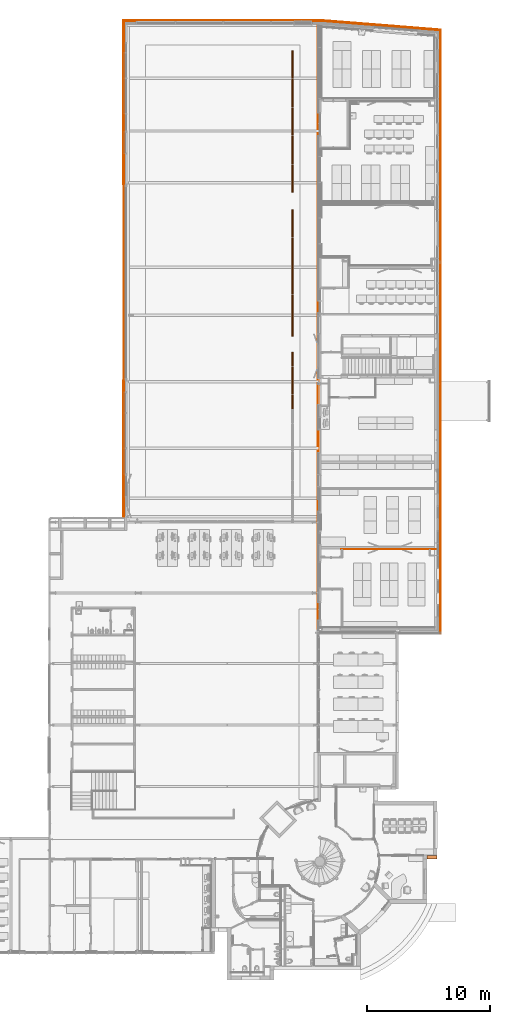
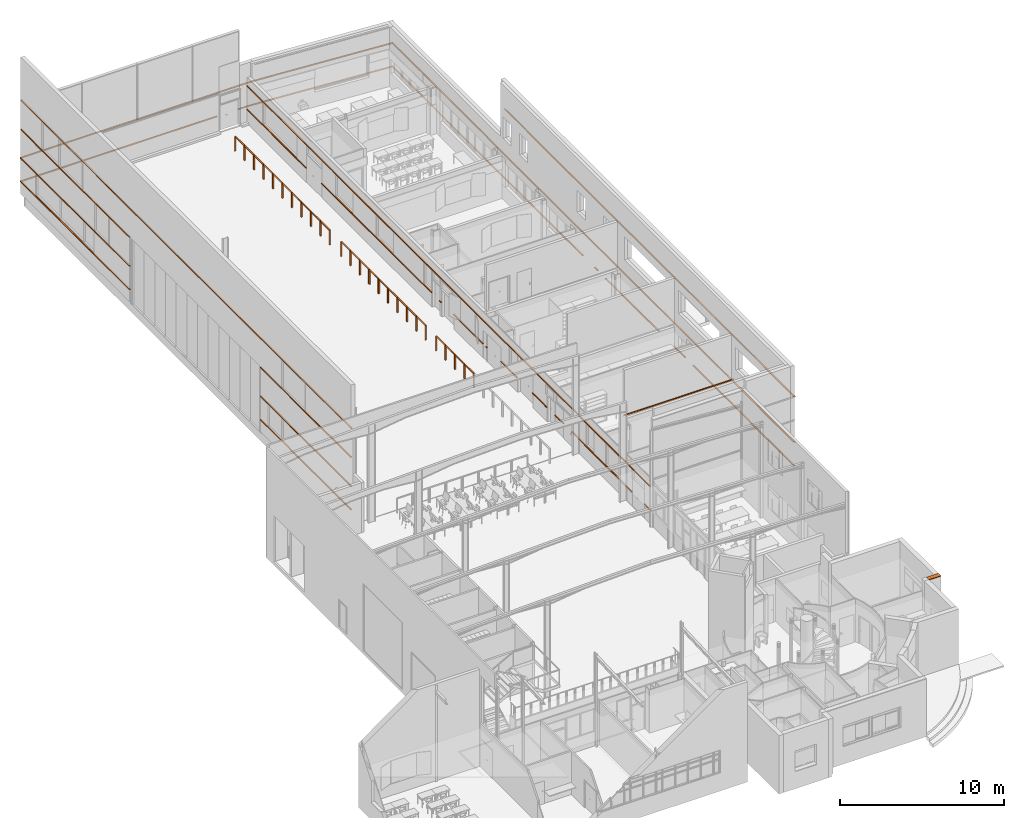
# One storey, part 135 of 137: 38 proxies.
"""IFC2X3 building model written with IfcOpenShell, lengths in centimetres."""

from ifc_helpers import new_model, entity, si_unit, converted_unit, derived_unit, direction, frame, frame_2d, origin, origin_2d_with_axis, place, context, subcontext, project, spatial, polyline, rectangle, outline, extrude, source, transform, mapped, type_object, type_shapes, element, save


model = new_model("IFC2X3")

# Units and contexts
model_context = context("Model", 3, precision=0.001, world=origin(), true_north=direction((6.12303176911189e-17, 1.0)))
body_context = subcontext(model_context, "Body", "Model", "MODEL_VIEW")
ifc_project = project(units=[si_unit("LENGTHUNIT", "METRE", prefix="CENTI"), si_unit("AREAUNIT", "SQUARE_METRE"), si_unit("VOLUMEUNIT", "CUBIC_METRE"), converted_unit("PLANEANGLEUNIT", "DEGREE", entity("IfcRatioMeasure", 0.0174532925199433), si_unit("PLANEANGLEUNIT", "RADIAN"), dimensions=[0, 0, 0, 0, 0, 0, 0]), si_unit("MASSUNIT", "GRAM", prefix="KILO"), si_unit("TIMEUNIT", "SECOND"), si_unit("FREQUENCYUNIT", "HERTZ"), si_unit("THERMODYNAMICTEMPERATUREUNIT", "DEGREE_CELSIUS"), derived_unit("THERMALTRANSMITTANCEUNIT", [(si_unit("MASSUNIT", "GRAM", prefix="KILO"), 1), (si_unit("THERMODYNAMICTEMPERATUREUNIT", "KELVIN"), -1), (si_unit("TIMEUNIT", "SECOND"), -3)]), derived_unit("VOLUMETRICFLOWRATEUNIT", [(si_unit("LENGTHUNIT", "METRE"), 3), (si_unit("TIMEUNIT", "SECOND"), -1)]), si_unit("ELECTRICCURRENTUNIT", "AMPERE"), si_unit("ELECTRICVOLTAGEUNIT", "VOLT"), si_unit("POWERUNIT", "WATT"), si_unit("FORCEUNIT", "NEWTON", prefix="KILO"), si_unit("ILLUMINANCEUNIT", "LUX"), si_unit("LUMINOUSFLUXUNIT", "LUMEN"), si_unit("LUMINOUSINTENSITYUNIT", "CANDELA"), derived_unit("USERDEFINED", [(si_unit("MASSUNIT", "GRAM", prefix="KILO"), -1), (si_unit("LENGTHUNIT", "METRE"), -2), (si_unit("TIMEUNIT", "SECOND"), 3), (si_unit("LUMINOUSFLUXUNIT", "LUMEN"), 1)]), derived_unit("LINEARVELOCITYUNIT", [(si_unit("LENGTHUNIT", "METRE"), 1), (si_unit("TIMEUNIT", "SECOND"), -1)]), si_unit("PRESSUREUNIT", "PASCAL"), derived_unit("USERDEFINED", [(si_unit("LENGTHUNIT", "METRE"), -2), (si_unit("MASSUNIT", "GRAM", prefix="KILO"), 1), (si_unit("TIMEUNIT", "SECOND"), -2)])], contexts=[model_context])

# Site, building, storey, space
site_placement = place(None, frame((8.62739174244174, -249.285249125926, 0.0)))
site = spatial("IfcSite", under=ifc_project, at=site_placement, Name="Default", CompositionType="ELEMENT")
building_placement = place(site_placement, origin())
building = spatial("IfcBuilding", under=site, at=building_placement, CompositionType="ELEMENT")
storey_placement = place(building_placement, origin())
storey = spatial("IfcBuildingStorey", under=building, at=storey_placement, Name="RDC", CompositionType="ELEMENT", Elevation=-8.82465566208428e-11)
space_placement = place(storey_placement, origin())
space = spatial("IfcSpace", under=storey, at=space_placement, Name="083", CompositionType="ELEMENT", InteriorOrExteriorSpace="INTERNAL")

# Proxies
building_element_proxy_type = type_object("IfcBuildingElementProxyType", Name="garde-corps-demontable", PredefinedType="NOTDEFINED")
shared_shape = source(origin(), body_context, "Body", "SweptSolid", [
    extrude(outline(polyline([(-55.5, -55.0), (54.5, -55.0), (54.5000000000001, -53.0), (-53.5000000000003, -53.0), (-53.5, 53.0), (54.5, 53.0), (54.5000000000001, 55.0), (-55.5, 55.0), (-55.5, -55.0)])), frame((0.0, 55.0, 54.5000000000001), z_axis=(1.0, 0.0, 0.0), x_axis=(0.0, 0.0, -1.0)), (0.0, 0.0, 1.0), 10.0),
])
type_shapes(building_element_proxy_type, [shared_shape])
for number, where, name in (
    (1, (2816.9048277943, 6192.4797874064, 0.0), "garde-corps-demontable:garde-corps-demontable"),
    (2, (2816.9048277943, 5942.4797874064, 0.0), "garde-corps-demontable:garde-corps-demontable"),
    (3, (2816.9048277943, 5827.4797874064, 0.0), "garde-corps-demontable:garde-corps-demontable"),
    (4, (2816.9048277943, 5712.4797874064, 0.0), "garde-corps-demontable:garde-corps-demontable"),
    (5, (2816.9048277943, 5597.4797874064, 0.0), "garde-corps-demontable:garde-corps-demontable"),
    (6, (2816.9048277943, 5482.4797874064, 0.0), "garde-corps-demontable:garde-corps-demontable"),
    (7, (2816.9048277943, 5367.4797874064, 0.0), "garde-corps-demontable:garde-corps-demontable"),
    (8, (2816.9048277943, 5252.4797874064, 0.0), "garde-corps-demontable:garde-corps-demontable"),
    (9, (2816.9048277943, 5137.4797874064, 0.0), "garde-corps-demontable:garde-corps-demontable"),
    (10, (2816.9048277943, 5022.4797874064, 0.0), "garde-corps-demontable:garde-corps-demontable"),
    (11, (2816.9048277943, 4783.4797874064, 0.0), "garde-corps-demontable:garde-corps-demontable"),
    (12, (2816.9048277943, 4667.4797874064, 0.0), "garde-corps-demontable:garde-corps-demontable"),
    (13, (2816.9048277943, 4551.4797874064, 0.0), "garde-corps-demontable:garde-corps-demontable"),
    (14, (2816.9048277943, 4435.4797874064, 0.0), "garde-corps-demontable:garde-corps-demontable"),
    (15, (2816.9048277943, 6308.4797874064, 0.0), "garde-corps-demontable:garde-corps-demontable"),
    (16, (2816.9048277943, 6424.4797874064, 0.0), "garde-corps-demontable:garde-corps-demontable"),
    (17, (2816.9048277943, 6540.4797874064, 0.0), "garde-corps-demontable:garde-corps-demontable"),
    (18, (2816.9048277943, 6656.4797874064, 0.0), "garde-corps-demontable:garde-corps-demontable"),
    (19, (2816.9048277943, 6772.4797874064, 0.0), "garde-corps-demontable:garde-corps-demontable"),
    (20, (2816.9048277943, 6888.4797874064, 0.0), "garde-corps-demontable:garde-corps-demontable"),
    (21, (2816.9048277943, 7004.4797874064, 0.0), "garde-corps-demontable:garde-corps-demontable"),
    (22, (2816.9048277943, 7120.4797874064, 0.0), "garde-corps-demontable:garde-corps-demontable"),
    (23, (2816.9048277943, 7236.4797874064, 0.0), "garde-corps-demontable:garde-corps-demontable"),
):
    element("IfcBuildingElementProxy", number, at=place(space_placement, frame(where)), inside=space, type_object=building_element_proxy_type, Name=name, ObjectType="garde-corps-demontable", context=body_context, shape_type="MappedRepresentation", body=[
        mapped(shared_shape, transform((0.0, 0.0, 0.0), scale=1.0)),
    ])
proxy_1_placement = place(storey_placement, origin())
element("IfcBuildingElementProxy", 24, at=proxy_1_placement, inside=storey, Name="Profil en relief:Profil-acier-5x5", ObjectType="Profil en relief:Profil-acier-5x5", context=body_context, shape_type="SweptSolid", body=[
    extrude(outline(polyline([(-42.3924879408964, -3.50000000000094), (42.2543292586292, -3.50000000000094), (42.5306466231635, 3.4999999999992), (-42.3924879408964, 3.4999999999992), (-42.3924879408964, -3.50000000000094)])), frame((3025.29731574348, 7588.476551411, 105.0)), (0.0, 0.0, 1.0), 4.99999999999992),
    extrude(rectangle(XDim=1386.00000000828, YDim=7.00000000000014, at=frame_2d((-1.70530256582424e-13, -4.33209024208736e-13), x_axis=(1.0, 0.0))), frame((2139.90482779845, 7588.476551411, 105.0)), (0.0, 0.0, 1.0), 4.99999999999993),
])
proxy_2_placement = place(storey_placement, origin())
element("IfcBuildingElementProxy", 25, at=proxy_2_placement, inside=storey, Name="Profil en relief:Profil-acier-5x5", ObjectType="Profil en relief:Profil-acier-5x5", context=body_context, shape_type="SweptSolid", body=[
    extrude(outline(polyline([(-1770.0, -3.50000000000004), (1770.0, -3.5000000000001), (1763.0, 3.50000000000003), (-1763.0, 3.50000000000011), (-1770.0, -3.50000000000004)])), frame((4025.40482781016, 4374.98020810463, 621.0), z_axis=(0.0, 0.0, 1.0), x_axis=(0.0, 1.0, 0.0)), (0.0, 0.0, 1.0), 4.99999999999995),
])
proxy_3_placement = place(storey_placement, origin())
element("IfcBuildingElementProxy", 26, at=proxy_3_placement, inside=storey, Name="Profil en relief:Profil-acier-5x5", ObjectType="Profil en relief:Profil-acier-5x5", context=body_context, shape_type="SweptSolid", body=[
    extrude(outline(polyline([(-2455.63441684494, -3.50000000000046), (2455.36859260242, -3.50000000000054), (2448.90024108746, 3.49999999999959), (-2448.63441684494, 3.49999999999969), (-2455.63441684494, -3.50000000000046)])), frame((4025.40482781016, 5060.6146249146, 280.0), z_axis=(0.0, 0.0, 1.0), x_axis=(0.0, 1.0, 0.0)), (0.0, 0.0, 1.0), 4.99999999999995),
])
proxy_4_placement = place(storey_placement, origin())
element("IfcBuildingElementProxy", 27, at=proxy_4_placement, inside=storey, Name="Profil en relief:Profil-acier-5x5", ObjectType="Profil en relief:Profil-acier-5x5", context=body_context, shape_type="SweptSolid", body=[
    extrude(rectangle(XDim=1232.204985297, YDim=7.00000000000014, at=origin_2d_with_axis()), frame((4025.40482781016, 3224.08270071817, 105.0), z_axis=(0.0, 0.0, 1.0), x_axis=(0.0, 1.0, 0.0)), (0.0, 0.0, 1.0), 4.99999999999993),
    extrude(outline(polyline([(-1160.38441681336, -3.50000000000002), (1163.61859257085, -3.50000000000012), (1157.15024105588, 3.50000000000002), (-1160.38441681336, 3.50000000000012), (-1160.38441681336, -3.50000000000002)])), frame((4025.40482781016, 6352.36462494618, 105.0), z_axis=(0.0, 0.0, 1.0), x_axis=(0.0, 1.0, 0.0)), (0.0, 0.0, 1.0), 4.99999999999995),
    extrude(rectangle(XDim=35.9999999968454, YDim=7.00000000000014, at=origin_2d_with_axis()), frame((4025.40482781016, 5024.98020813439, 105.0), z_axis=(0.0, 0.0, 1.0), x_axis=(0.0, 1.0, 0.0)), (0.0, 0.0, 1.0), 4.99999999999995),
    extrude(rectangle(XDim=642.795014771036, YDim=7.00000000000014, at=frame_2d((0.0, 4.33209024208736e-13), x_axis=(1.0, 0.0))), frame((4025.40482781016, 4585.58270075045, 105.0), z_axis=(0.0, 0.0, 1.0), x_axis=(0.0, 1.0, 0.0)), (0.0, 0.0, 1.0), 4.99999999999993),
    extrude(rectangle(XDim=134.999999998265, YDim=7.00000000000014, at=frame_2d((4.2632564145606e-13, 4.33209024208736e-13), x_axis=(1.0, 0.0))), frame((4025.40482781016, 4007.6851933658, 105.0), z_axis=(0.0, 0.0, 1.0), x_axis=(0.0, 1.0, 0.0)), (0.0, 0.0, 1.0), 4.99999999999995),
])
proxy_5_placement = place(storey_placement, origin())
element("IfcBuildingElementProxy", 28, at=proxy_5_placement, inside=storey, Name="Profil en relief:Profil-acier-5x5", ObjectType="Profil en relief:Profil-acier-5x5", context=body_context, shape_type="SweptSolid", body=[
    extrude(rectangle(XDim=4033.99594889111, YDim=6.99999999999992, at=frame_2d((0.0, 1.08357767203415e-13), x_axis=(1.0, 0.0))), frame((1452.98017189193, 5571.97857696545, 710.0), z_axis=(0.0, 0.0, 1.0), x_axis=(0.0, 1.0, 0.0)), (0.0, 0.0, 1.0), 4.99999999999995),
])
proxy_6_placement = place(storey_placement, origin())
element("IfcBuildingElementProxy", 29, at=proxy_6_placement, inside=storey, Name="Profil en relief:Profil-acier-5x5", ObjectType="Profil en relief:Profil-acier-5x5", context=body_context, shape_type="SweptSolid", body=[
    extrude(outline(polyline([(-805.142487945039, -3.50000000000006), (808.504329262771, -3.50000000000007), (808.780646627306, 3.50000000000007), (-812.142487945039, 3.50000000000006), (-805.142487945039, -3.50000000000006)])), frame((2259.04731573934, 7588.476551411, 280.0)), (0.0, 0.0, 1.0), 4.99999999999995),
])
proxy_7_placement = place(storey_placement, origin())
element("IfcBuildingElementProxy", 30, at=proxy_7_placement, inside=storey, Name="Profil en relief:Profil-acier-5x5", ObjectType="Profil en relief:Profil-acier-5x5", context=body_context, shape_type="SweptSolid", body=[
    extrude(outline(polyline([(-480.213983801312, -3.50000000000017), (477.117966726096, -3.50000000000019), (483.586318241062, 3.5000000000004), (-480.490301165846, 3.49999999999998), (-480.213983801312, -3.50000000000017)])), frame((3546.54731574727, 7550.61279658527, 105.0), z_axis=(0.0, 0.0, 1.0), x_axis=(0.996888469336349, -0.0788249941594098, 0.0)), (0.0, 0.0, 1.0), 4.99999999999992),
])
proxy_8_placement = place(storey_placement, origin())
element("IfcBuildingElementProxy", 31, at=proxy_8_placement, inside=storey, Name="Profil en relief:Profil-acier-5x5", ObjectType="Profil en relief:Profil-acier-5x5", context=body_context, shape_type="SweptSolid", body=[
    extrude(outline(polyline([(-480.213983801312, -3.50000000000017), (477.117966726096, -3.50000000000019), (483.586318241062, 3.5000000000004), (-480.490301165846, 3.49999999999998), (-480.213983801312, -3.50000000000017)])), frame((3546.54731574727, 7550.61279658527, 280.0), z_axis=(0.0, 0.0, 1.0), x_axis=(0.996888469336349, -0.0788249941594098, 0.0)), (0.0, 0.0, 1.0), 4.99999999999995),
])
proxy_9_placement = place(storey_placement, origin())
element("IfcBuildingElementProxy", 32, at=proxy_9_placement, inside=storey, Name="Profil en relief:Profil-acier-5x5", ObjectType="Profil en relief:Profil-acier-5x5", context=body_context, shape_type="SweptSolid", body=[
    extrude(rectangle(XDim=1106.29462038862, YDim=6.99999999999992, at=frame_2d((3.97903932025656e-13, 1.08357767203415e-13), x_axis=(1.0, 0.0))), frame((1450.4048277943, 4108.1279127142, 495.0), z_axis=(0.0, 0.0, 1.0), x_axis=(0.0, 1.0, 0.0)), (0.0, 0.0, 1.0), 5.00000000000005),
    extrude(rectangle(XDim=1323.70172295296, YDim=6.99999999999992, at=frame_2d((0.0, 1.08357767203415e-13), x_axis=(1.0, 0.0))), frame((1450.4048277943, 6923.126084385, 495.0), z_axis=(0.0, 0.0, 1.0), x_axis=(0.0, 1.0, 0.0)), (0.0, 0.0, 1.0), 5.00000000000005),
])
proxy_10_placement = place(storey_placement, origin())
element("IfcBuildingElementProxy", 33, at=proxy_10_placement, inside=storey, Name="Profil en relief:Profil-acier-5x5", ObjectType="Profil en relief:Profil-acier-5x5", context=body_context, shape_type="SweptSolid", body=[
    extrude(rectangle(XDim=1106.29462038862, YDim=6.99999999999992, at=frame_2d((3.97903932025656e-13, 1.08357767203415e-13), x_axis=(1.0, 0.0))), frame((1450.4048277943, 4108.1279127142, 105.0), z_axis=(0.0, 0.0, 1.0), x_axis=(0.0, 1.0, 0.0)), (0.0, 0.0, 1.0), 4.99999999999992),
    extrude(rectangle(XDim=1327.70132850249, YDim=6.99999999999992, at=frame_2d((-4.54747350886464e-13, 1.08357767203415e-13), x_axis=(1.0, 0.0))), frame((1450.4048277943, 6925.12588715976, 105.0), z_axis=(0.0, 0.0, 1.0), x_axis=(0.0, 1.0, 0.0)), (0.0, 0.0, 1.0), 4.99999999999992),
])
proxy_11_placement = place(storey_placement, origin())
element("IfcBuildingElementProxy", 34, at=proxy_11_placement, inside=storey, Name="Profil en relief:Profil-acier-5x5", ObjectType="Profil en relief:Profil-acier-5x5", context=body_context, shape_type="SweptSolid", body=[
    extrude(rectangle(XDim=1106.29462038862, YDim=6.99999999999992, at=frame_2d((3.97903932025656e-13, 1.08357767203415e-13), x_axis=(1.0, 0.0))), frame((1450.4048277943, 4108.1279127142, 280.0), z_axis=(0.0, 0.0, 1.0), x_axis=(0.0, 1.0, 0.0)), (0.0, 0.0, 1.0), 4.99999999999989),
    extrude(outline(polyline([(-663.600664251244, -3.49999999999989), (660.100664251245, -3.49999999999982), (667.100664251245, 3.50000000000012), (-663.600664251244, 3.50000000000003), (-663.600664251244, -3.49999999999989)])), frame((1450.4048277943, 6924.87588715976, 280.0), z_axis=(0.0, 0.0, 1.0), x_axis=(0.0, 1.0, 0.0)), (0.0, 0.0, 1.0), 4.99999999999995),
])
proxy_12_placement = place(storey_placement, origin())
element("IfcBuildingElementProxy", 35, at=proxy_12_placement, inside=storey, Name="Profil en relief:Plinthe-10x2", ObjectType="Profil en relief:Plinthe-10x2", context=body_context, shape_type="SweptSolid", body=[
    extrude(rectangle(XDim=774.500000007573, YDim=1.99999999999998, at=frame_2d((2.27373675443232e-13, 2.16604512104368e-13), x_axis=(1.0, 0.0))), frame((3607.15482780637, 3292.18519336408, 343.0)), (0.0, 0.0, 1.0), 10.0000000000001),
])
proxy_13_placement = place(storey_placement, origin())
element("IfcBuildingElementProxy", 36, at=proxy_13_placement, inside=storey, Name="Profil en relief:Profil-acier-5x5", ObjectType="Profil en relief:Profil-acier-5x5", context=body_context, shape_type="SweptSolid", body=[
    extrude(rectangle(XDim=4926.99634334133, YDim=6.99999999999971, at=frame_2d((0.0, -2.16715534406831e-13), x_axis=(1.0, 0.0))), frame((3030.4048277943, 5098.47837974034, 280.0), z_axis=(0.0, 0.0, 1.0), x_axis=(0.0, -1.0, 0.0)), (0.0, 0.0, 1.0), 4.99999999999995),
])
proxy_14_placement = place(storey_placement, origin())
element("IfcBuildingElementProxy", 37, at=proxy_14_placement, inside=storey, Name="Profil en relief:Profil-acier-5x5", ObjectType="Profil en relief:Profil-acier-5x5", context=body_context, shape_type="SweptSolid", body=[
    extrude(rectangle(XDim=734.952310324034, YDim=6.99999999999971, at=frame_2d((0.0, 2.16715534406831e-13), x_axis=(1.0, 0.0))), frame((3030.40482779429, 3229.20903820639, 105.01534674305), z_axis=(0.0, 0.0, 1.0), x_axis=(0.0, -1.0, 0.0)), (0.0, 0.0, 1.0), 4.99999999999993),
    extrude(rectangle(XDim=101.500000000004, YDim=6.99999999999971, at=origin_2d_with_axis()), frame((3030.40482779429, 3750.43519336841, 105.01534674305), z_axis=(0.0, 0.0, 1.0), x_axis=(0.0, -1.0, 0.0)), (0.0, 0.0, 1.0), 4.99999999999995),
    extrude(rectangle(XDim=170.999999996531, YDim=6.99999999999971, at=frame_2d((0.0, -2.16715534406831e-13), x_axis=(1.0, 0.0))), frame((3030.40482779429, 3988.68519336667, 105.01534674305), z_axis=(0.0, 0.0, 1.0), x_axis=(0.0, -1.0, 0.0)), (0.0, 0.0, 1.0), 4.99999999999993),
    extrude(rectangle(XDim=197.795014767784, YDim=6.99999999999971, at=frame_2d((4.33431068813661e-13, 0.0), x_axis=(1.0, 0.0))), frame((3030.40482779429, 4364.08270074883, 105.01534674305), z_axis=(0.0, 0.0, 1.0), x_axis=(0.0, -1.0, 0.0)), (0.0, 0.0, 1.0), 4.99999999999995),
    extrude(rectangle(XDim=9.00000000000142, YDim=6.99999999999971, at=frame_2d((0.0, 2.16715534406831e-13), x_axis=(1.0, 0.0))), frame((3030.40482779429, 4638.48020813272, 105.01534674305), z_axis=(0.0, 0.0, 1.0), x_axis=(0.0, -1.0, 0.0)), (0.0, 0.0, 1.0), 4.99999999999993),
    extrude(rectangle(XDim=357.250000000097, YDim=6.99999999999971, at=frame_2d((4.40536496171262e-13, 2.16715534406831e-13), x_axis=(1.0, 0.0))), frame((3030.40482779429, 4861.60520813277, 105.01534674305), z_axis=(0.0, 0.0, 1.0), x_axis=(0.0, -1.0, 0.0)), (0.0, 0.0, 1.0), 4.99999999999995),
    extrude(rectangle(XDim=18.0000000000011, YDim=6.99999999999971, at=frame_2d((0.0, 2.16715534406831e-13), x_axis=(1.0, 0.0))), frame((3030.4048277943, 5200.23020813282, 105.01534674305), z_axis=(0.0, 0.0, 1.0), x_axis=(0.0, -1.0, 0.0)), (0.0, 0.0, 1.0), 4.99999999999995),
    extrude(rectangle(XDim=1338.5499903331, YDim=6.99999999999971, at=origin_2d_with_axis()), frame((3030.4048277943, 5980.50520329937, 105.01534674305), z_axis=(0.0, 0.0, 1.0), x_axis=(0.0, -1.0, 0.0)), (0.0, 0.0, 1.0), 4.99999999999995),
    extrude(rectangle(XDim=721.196352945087, YDim=6.99999999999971, at=frame_2d((4.54747350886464e-13, 2.16715534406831e-13), x_axis=(1.0, 0.0))), frame((3030.4048277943, 7201.37837493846, 105.01534674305), z_axis=(0.0, 0.0, 1.0), x_axis=(0.0, -1.0, 0.0)), (0.0, 0.0, 1.0), 4.99999999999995),
    extrude(rectangle(XDim=76.867856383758, YDim=6.99999999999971, at=frame_2d((4.33431068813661e-13, -2.16715534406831e-13), x_axis=(1.0, 0.0))), frame((3030.40482779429, 2673.41413626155, 105.01534674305), z_axis=(0.0, 0.0, 1.0), x_axis=(0.0, -1.0, 0.0)), (0.0, 0.0, 1.0), 4.99999999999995),
])
proxy_15_placement = place(storey_placement, origin())
element("IfcBuildingElementProxy", 38, at=proxy_15_placement, inside=storey, Name="Profil en relief:profil-couvertine-ex", ObjectType="Profil en relief:profil-couvertine-ex", context=body_context, shape_type="SweptSolid", body=[
    extrude(outline(polyline([(-3.07708620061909, -14.9798097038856), (1.92947315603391, -14.9798097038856), (0.515259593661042, -13.5655961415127), (0.444548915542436, -13.6363068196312), (1.68805179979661, -14.8798097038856), (-2.97052684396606, -14.8798097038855), (-2.97052684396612, 14.9201902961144), (1.82947315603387, 14.9201902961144), (1.82947315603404, 13.5201902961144), (1.92947315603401, 13.5201902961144), (1.92947315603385, 15.0201902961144), (-3.07708620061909, 15.0201902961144), (-3.07708620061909, -14.9798097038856)])), frame((3915.90482781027, 787.545804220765, 406.922913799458), z_axis=(1.0, 0.0, 0.0), x_axis=(0.0, 0.0, -1.0)), (0.0, 0.0, 1.0), 82.999999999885),
])

save(model, "model.ifc")
